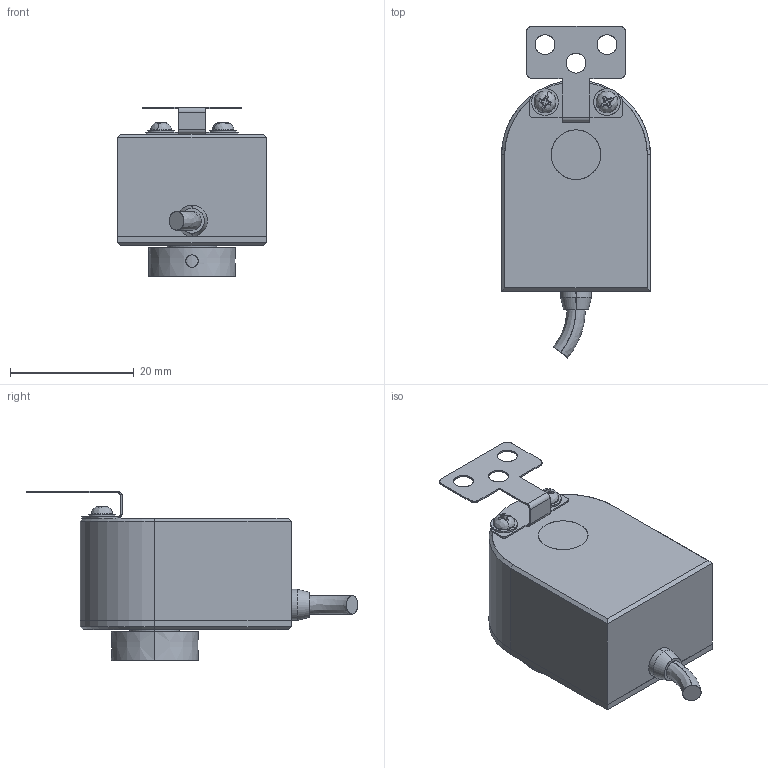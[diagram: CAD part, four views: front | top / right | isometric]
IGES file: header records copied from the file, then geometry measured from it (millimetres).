
Start section: SolidWorks IGES file using analytic representation for surfaces
Bounding box: 24 x 53.52 x 27.3 mm (x, y, z)
Surface area: 7201.8 mm2 (no closed solid volume)
Topology: 0 solids, 0 shells, 159 faces, 2532 edges, 2531 vertices
Faces by surface type: bspline 89, revolution 70
